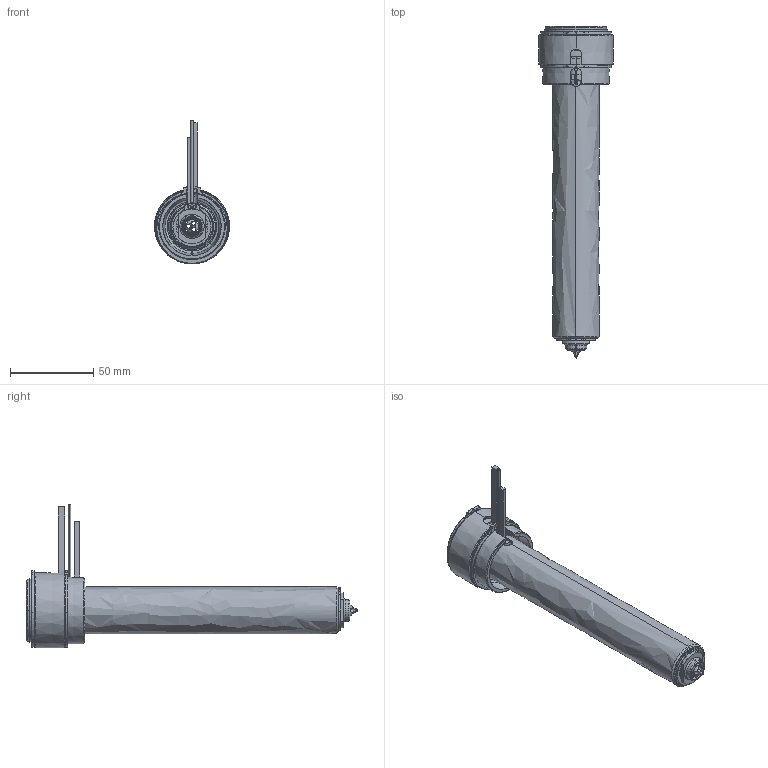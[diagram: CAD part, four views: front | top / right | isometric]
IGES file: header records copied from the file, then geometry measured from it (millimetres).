
Start section: SolidWorks IGES file using analytic representation for surfaces
Global section: file name: C:\Documents and Settings\ws-20\Desktop\TEM\UGEP4504-M-A-0 [Øf-0.88 ØC-09].IGS; native system: SolidWorks 2012; preprocessor: SolidWorks 2012; author: ws-20; date: 120424.085730; units: millimetre
Bounding box: 45 x 199.05 x 86.15 mm (x, y, z)
Surface area: 67951.3 mm2 (no closed solid volume)
Topology: 0 solids, 0 shells, 182 faces, 3450 edges, 3450 vertices
Faces by surface type: revolution 112, bspline 70
